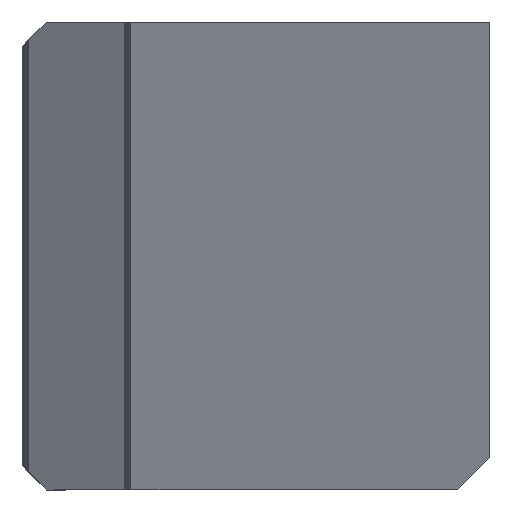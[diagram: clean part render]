
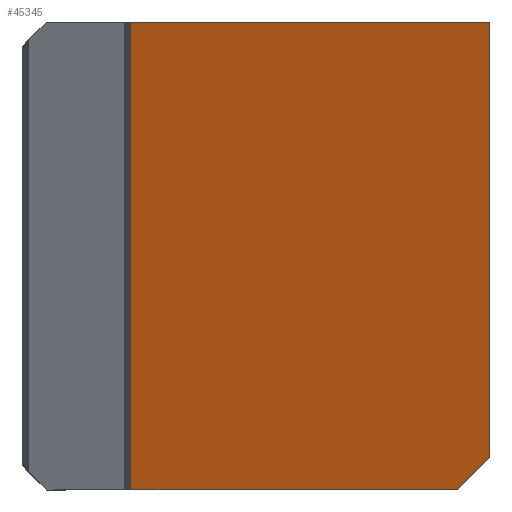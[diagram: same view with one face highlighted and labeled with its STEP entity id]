
A CAD part, left-side view. The second image highlights one B-rep face of the part: STEP entity #45345.
In plain terms, the highlighted planar face has unit normal (-0.943, 0, -0.334).
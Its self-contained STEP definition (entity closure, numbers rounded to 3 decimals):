
#1089 = EDGE_CURVE ( 'NONE', #26234, #30944, #16894, .T. ) ;
#1810 = DIRECTION ( 'NONE',  ( -0.243, -0.686, 0.686 ) ) ;
#3434 = EDGE_LOOP ( 'NONE', ( #17211, #34525, #4804, #49340, #35941 ) ) ;
#3655 = CARTESIAN_POINT ( 'NONE',  ( 10.286, 0., -29. ) ) ;
#4804 = ORIENTED_EDGE ( 'NONE', *, *, #51086, .F. ) ;
#4880 = FACE_OUTER_BOUND ( 'NONE', #3434, .T. ) ;
#8370 = VECTOR ( 'NONE', #45400, 1000. ) ;
#8952 = CARTESIAN_POINT ( 'NONE',  ( 0., 29., 0. ) ) ;
#9728 = DIRECTION ( 'NONE',  ( -0.334, 0., 0.942 ) ) ;
#12567 = DIRECTION ( 'NONE',  ( -0.334, 0., 0.942 ) ) ;
#13372 = PLANE ( 'NONE',  #17111 ) ;
#13656 = CARTESIAN_POINT ( 'NONE',  ( 9.576, 0., -27. ) ) ;
#14975 = EDGE_CURVE ( 'NONE', #21885, #33906, #44534, .T. ) ;
#16020 = VECTOR ( 'NONE', #43194, 1000. ) ;
#16894 = LINE ( 'NONE', #8952, #8370 ) ;
#17111 = AXIS2_PLACEMENT_3D ( 'NONE', #42173, #25710, #12567 ) ;
#17211 = ORIENTED_EDGE ( 'NONE', *, *, #17293, .F. ) ;
#17293 = EDGE_CURVE ( 'NONE', #21885, #32940, #47292, .T. ) ;
#17311 = CARTESIAN_POINT ( 'NONE',  ( 0., 22.25, 0. ) ) ;
#20004 = EDGE_CURVE ( 'NONE', #32940, #26234, #26714, .T. ) ;
#21885 = VERTEX_POINT ( 'NONE', #46600 ) ;
#21919 = CARTESIAN_POINT ( 'NONE',  ( 10.286, 22.25, -29. ) ) ;
#22643 = CARTESIAN_POINT ( 'NONE',  ( 4.505, -14.299, -12.701 ) ) ;
#25710 = DIRECTION ( 'NONE',  ( -0.942, 0., -0.334 ) ) ;
#26234 = VERTEX_POINT ( 'NONE', #17311 ) ;
#26714 = LINE ( 'NONE', #30573, #41541 ) ;
#28147 = VECTOR ( 'NONE', #1810, 1000. ) ;
#30573 = CARTESIAN_POINT ( 'NONE',  ( 0., 22.25, 0. ) ) ;
#30944 = VERTEX_POINT ( 'NONE', #45894 ) ;
#32940 = VERTEX_POINT ( 'NONE', #21919 ) ;
#33906 = VERTEX_POINT ( 'NONE', #13656 ) ;
#34525 = ORIENTED_EDGE ( 'NONE', *, *, #14975, .T. ) ;
#35941 = ORIENTED_EDGE ( 'NONE', *, *, #20004, .F. ) ;
#38833 = CARTESIAN_POINT ( 'NONE',  ( 10.286, 29., -29. ) ) ;
#41483 = LINE ( 'NONE', #3655, #42000 ) ;
#41541 = VECTOR ( 'NONE', #9728, 1000. ) ;
#42000 = VECTOR ( 'NONE', #45570, 1000. ) ;
#42173 = CARTESIAN_POINT ( 'NONE',  ( 0., 0., 0. ) ) ;
#43194 = DIRECTION ( 'NONE',  ( 0., 1., 0. ) ) ;
#44534 = LINE ( 'NONE', #22643, #28147 ) ;
#45345 = ADVANCED_FACE ( 'NONE', ( #4880 ), #13372, .T. ) ;
#45400 = DIRECTION ( 'NONE',  ( 0., -1., 0. ) ) ;
#45570 = DIRECTION ( 'NONE',  ( 0.334, 0., -0.942 ) ) ;
#45894 = CARTESIAN_POINT ( 'NONE',  ( 0., 0., 0. ) ) ;
#46600 = CARTESIAN_POINT ( 'NONE',  ( 10.286, 2., -29. ) ) ;
#47292 = LINE ( 'NONE', #38833, #16020 ) ;
#49340 = ORIENTED_EDGE ( 'NONE', *, *, #1089, .F. ) ;
#51086 = EDGE_CURVE ( 'NONE', #30944, #33906, #41483, .T. ) ;
